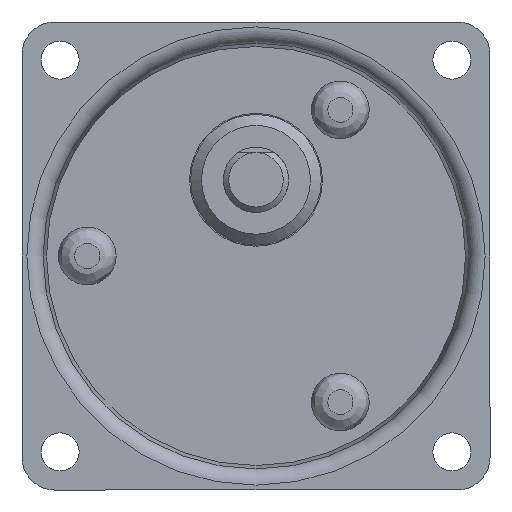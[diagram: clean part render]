
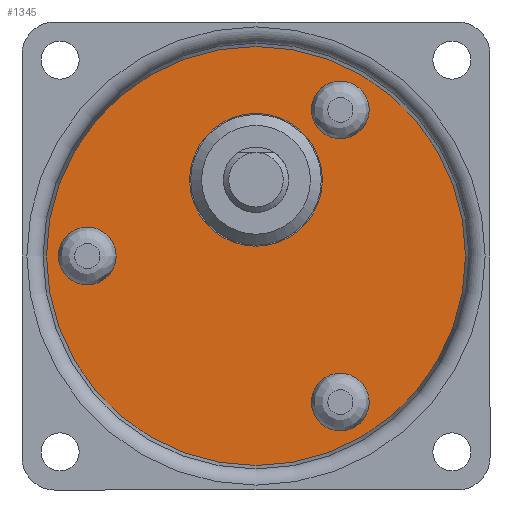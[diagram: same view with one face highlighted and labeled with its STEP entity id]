
A CAD part, front view. The second image highlights one B-rep face of the part: STEP entity #1345.
In plain terms, the highlighted planar face has unit normal (0, -1, 0).
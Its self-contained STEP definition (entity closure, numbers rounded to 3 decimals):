
#852=CARTESIAN_POINT('',(6.425,-4.65,-11.128));
#853=VERTEX_POINT('',#852);
#854=CARTESIAN_POINT('',(7.75,-4.65,-13.423));
#855=DIRECTION('',(0.0,1.0,0.0));
#856=DIRECTION('',(0.5,0.0,-0.866));
#857=AXIS2_PLACEMENT_3D('',#854,#855,#856);
#858=CIRCLE('',#857,2.65);
#859=EDGE_CURVE('',#853,#853,#858,.T.);
#957=CARTESIAN_POINT('',(6.425,-4.65,11.128));
#958=VERTEX_POINT('',#957);
#959=CARTESIAN_POINT('',(7.75,-4.65,13.423));
#960=DIRECTION('',(0.0,1.0,0.0));
#961=DIRECTION('',(0.5,0.0,0.866));
#962=AXIS2_PLACEMENT_3D('',#959,#960,#961);
#963=CIRCLE('',#962,2.65);
#964=EDGE_CURVE('',#958,#958,#963,.T.);
#1062=CARTESIAN_POINT('',(-12.85,-4.65,0.));
#1063=VERTEX_POINT('',#1062);
#1064=CARTESIAN_POINT('',(-15.5,-4.65,0.));
#1065=DIRECTION('',(0.0,1.0,0.0));
#1066=DIRECTION('',(-1.0,0.0,0.0));
#1067=AXIS2_PLACEMENT_3D('',#1064,#1065,#1066);
#1068=CIRCLE('',#1067,2.65);
#1069=EDGE_CURVE('',#1063,#1063,#1068,.T.);
#1102=CARTESIAN_POINT('',(6.1,-4.65,7.));
#1103=VERTEX_POINT('',#1102);
#1104=CARTESIAN_POINT('',(0.,-4.65,7.));
#1105=DIRECTION('',(0.0,1.0,0.0));
#1106=DIRECTION('',(-1.0,0.0,0.0));
#1107=AXIS2_PLACEMENT_3D('',#1104,#1105,#1106);
#1108=CIRCLE('',#1107,6.1);
#1109=EDGE_CURVE('',#1103,#1103,#1108,.T.);
#1187=CARTESIAN_POINT('',(0.,-4.65,-19.25));
#1188=VERTEX_POINT('',#1187);
#1189=CARTESIAN_POINT('',(0.,-4.65,0.));
#1190=DIRECTION('',(0.0,-1.0,0.0));
#1191=DIRECTION('',(0.0,0.0,1.0));
#1192=AXIS2_PLACEMENT_3D('',#1189,#1190,#1191);
#1193=CIRCLE('',#1192,19.25);
#1194=EDGE_CURVE('',#1188,#1188,#1193,.F.);
#1325=CARTESIAN_POINT('',(0.,-4.65,10.059));
#1326=DIRECTION('',(0.0,1.0,0.0));
#1327=DIRECTION('',(0.0,0.0,1.0));
#1328=AXIS2_PLACEMENT_3D('',#1325,#1326,#1327);
#1329=PLANE('',#1328);
#1330=ORIENTED_EDGE('',*,*,#1194,.F.);
#1331=EDGE_LOOP('',(#1330));
#1332=FACE_OUTER_BOUND('',#1331,.T.);
#1333=ORIENTED_EDGE('',*,*,#859,.T.);
#1334=EDGE_LOOP('',(#1333));
#1335=FACE_BOUND('',#1334,.T.);
#1336=ORIENTED_EDGE('',*,*,#964,.T.);
#1337=EDGE_LOOP('',(#1336));
#1338=FACE_BOUND('',#1337,.T.);
#1339=ORIENTED_EDGE('',*,*,#1069,.T.);
#1340=EDGE_LOOP('',(#1339));
#1341=FACE_BOUND('',#1340,.T.);
#1342=ORIENTED_EDGE('',*,*,#1109,.T.);
#1343=EDGE_LOOP('',(#1342));
#1344=FACE_BOUND('',#1343,.T.);
#1345=ADVANCED_FACE('',(#1332,#1335,#1338,#1341,#1344),#1329,.F.);
